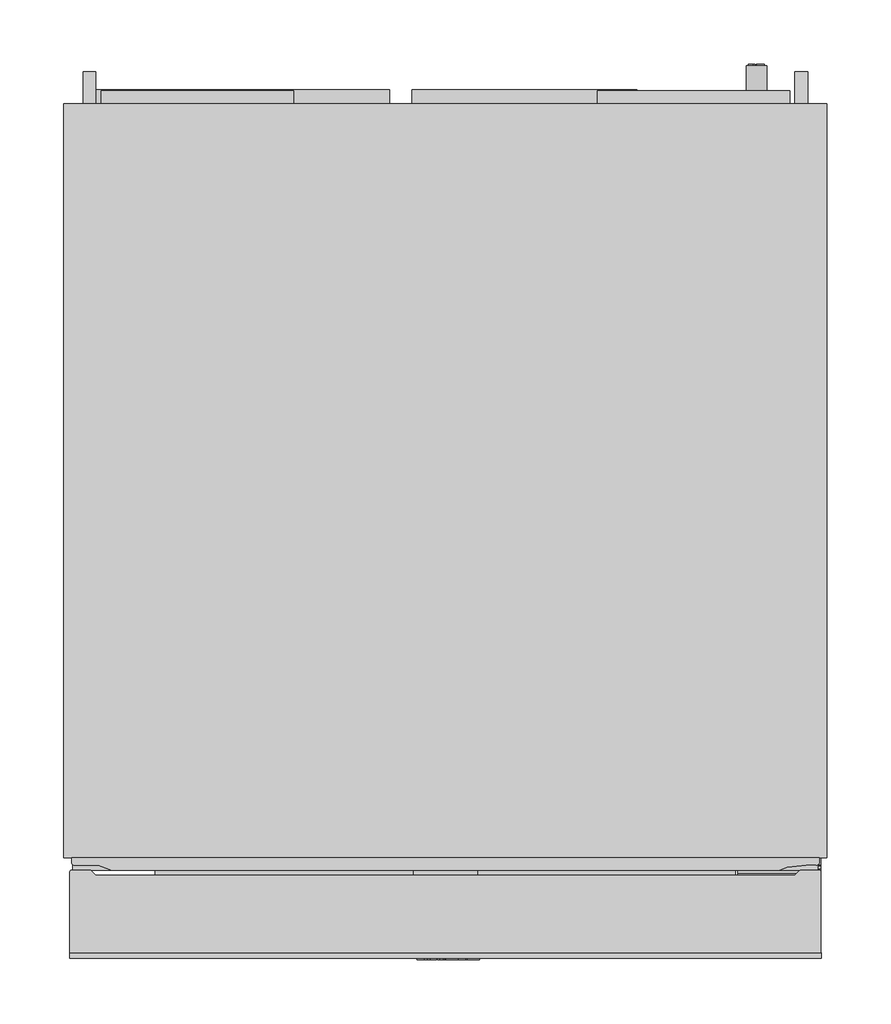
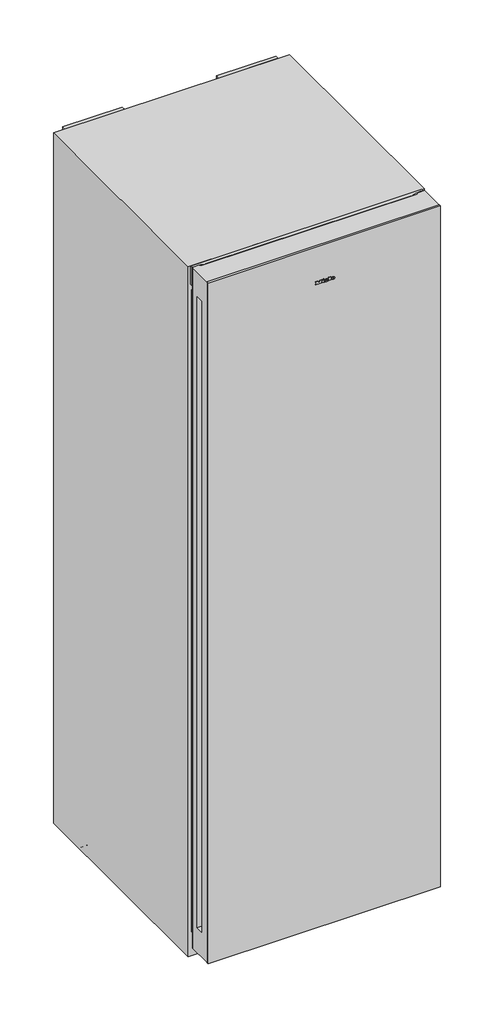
# Not in any storey: 1 proxy.
"""IFC4 building model written with IfcOpenShell, lengths in millimetres."""

from ifc_helpers import new_model, si_unit, origin, place, context, project, spatial, transform, mapped, element, save
from components import specialty_equipment_05008fe5, specialty_equipment_2e1800ad

model = new_model("IFC4")

# Units and contexts
model_context = context("Model", 3, world=origin())
ifc_project = project(units=[si_unit("LENGTHUNIT", "METRE", prefix="MILLI")], contexts=[model_context])

# Site, building
site = spatial("IfcSite", under=ifc_project)
building = spatial("IfcBuilding", under=site)

# Proxy
placement = place(None, origin())
specialty_equipment_shape = specialty_equipment_05008fe5(model_context)
specialty_equipment_2_shape = specialty_equipment_2e1800ad(model_context)
element("IfcBuildingElementProxy", 1, Name="12581040_CN_KWTS4785F_OBSW : 39478562_CN_12581040_KWTS4785F_OBSW", ObjectType="12581040_CN_KWTS4785F_OBSW : 39478562_CN_12581040_KWTS4785F_OBSW", at=placement, inside=building, context=model_context, shape_type="MappedRepresentation", body=[
    mapped(specialty_equipment_shape, transform((0.0, 0.0, 0.0), x_axis=(1.0, 0.0, 0.0), y_axis=(0.0, 1.0, 0.0), z_axis=(0.0, 0.0, 1.0))),
    mapped(specialty_equipment_2_shape, transform((0.0, 0.0, 0.0), x_axis=(1.0, 0.0, 0.0), y_axis=(0.0, 1.0, 0.0), z_axis=(0.0, 0.0, 1.0))),
])

save(model, "model.ifc")
